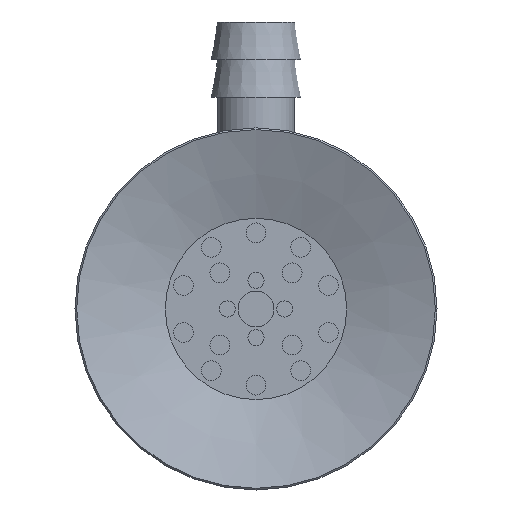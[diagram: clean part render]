
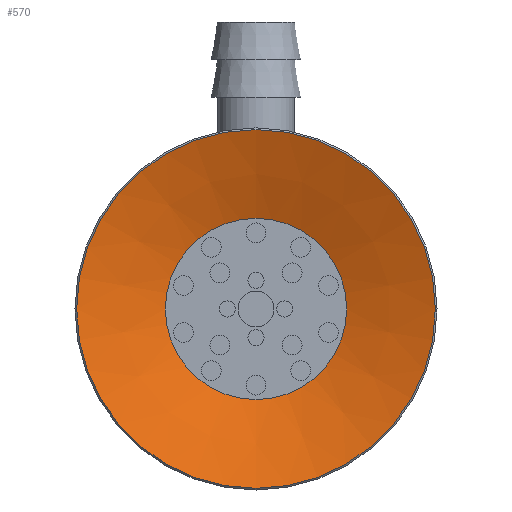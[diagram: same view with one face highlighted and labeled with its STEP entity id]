
A CAD part, front view. The second image highlights one B-rep face of the part: STEP entity #570.
In plain terms, the highlighted conical face has half-angle 70 degrees and reference radius 10 mm.
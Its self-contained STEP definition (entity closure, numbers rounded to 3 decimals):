
#570=ADVANCED_FACE('',(#904,#905),#906,.F.);
#904=FACE_BOUND('',#1347,.T.);
#905=FACE_OUTER_BOUND('',#1348,.T.);
#906=CONICAL_SURFACE('',#1349,10.0,1.222);
#1347=EDGE_LOOP('',(#2295));
#1348=EDGE_LOOP('',(#2296));
#1349=AXIS2_PLACEMENT_3D('',#2297,#2298,#2299);
#2295=ORIENTED_EDGE('',*,*,#2789,.T.);
#2296=ORIENTED_EDGE('',*,*,#2790,.F.);
#2297=CARTESIAN_POINT('',(0.0,0.,0.));
#2298=DIRECTION('',(0.0,0.,-1.0));
#2299=DIRECTION('',(0.0,1.0,0.));
#2789=EDGE_CURVE('',#3214,#3214,#3215,.T.);
#2790=EDGE_CURVE('',#3216,#3216,#3217,.T.);
#3214=VERTEX_POINT('',#4136);
#3215=CIRCLE('',#4137,5.055);
#3216=VERTEX_POINT('',#4138);
#3217=CIRCLE('',#4139,10.0);
#4136=CARTESIAN_POINT('',(0.0,-5.055,1.8));
#4137=AXIS2_PLACEMENT_3D('',#4553,#4554,#4555);
#4138=CARTESIAN_POINT('',(0.0,-10.0,0.));
#4139=AXIS2_PLACEMENT_3D('',#4556,#4557,#4558);
#4553=CARTESIAN_POINT('',(0.0,0.,1.8));
#4554=DIRECTION('',(0.0,0.,1.0));
#4555=DIRECTION('',(0.0,-1.0,0.));
#4556=CARTESIAN_POINT('',(0.0,0.,0.));
#4557=DIRECTION('',(0.0,0.,1.0));
#4558=DIRECTION('',(0.0,-1.0,0.));
